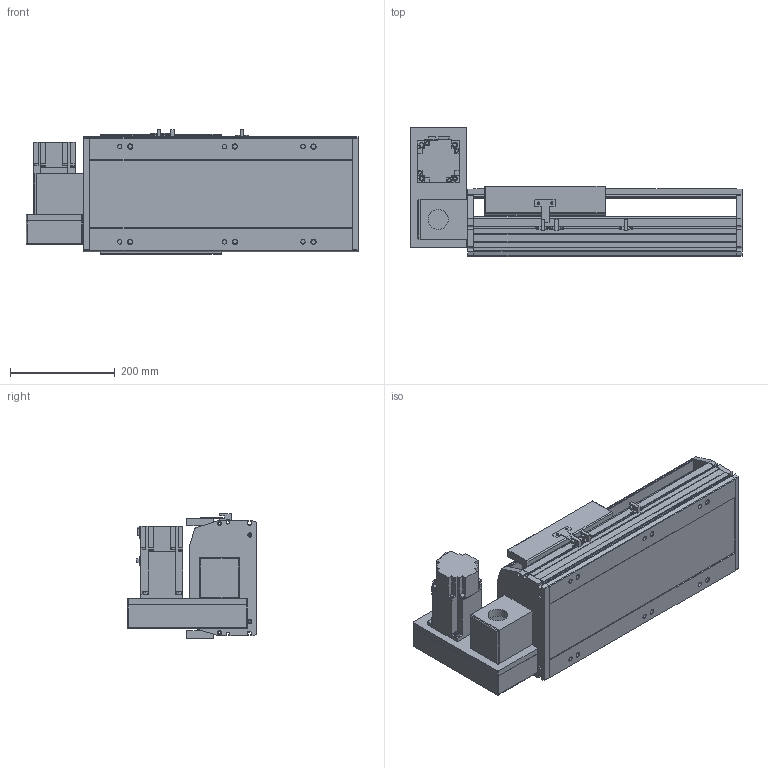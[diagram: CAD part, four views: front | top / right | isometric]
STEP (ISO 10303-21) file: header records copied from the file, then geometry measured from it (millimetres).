
FILE_DESCRIPTION(/* description */ ('STEP AP214'),/* implementation_level */ '2;1');
FILE_NAME(/* name */ 'PBS220-P40-S150-LU-T75-C1-N(0)',/* time_stamp */ '2022-06-13T02:26:22+02:00',/* author */ ('License CC BY-ND 4.0'),/* organization */ ('CADENAS'),/* preprocessor_version */ 'ST-DEVELOPER v18.102',/* originating_system */ 'PARTsolutions',/* authorisation */ ' ');
FILE_SCHEMA (('AUTOMOTIVE_DESIGN {1 0 10303 214 3 1 1}'));
Length unit declared in the file: millimetre
Products named in the file (7): PBS220-P40-S150-LU-T75-C1-N(0); PBS220_sensor; PBS220_plant; PBS220_sliser; T75-p1; PBS220T-LU_motors; PBS220-S150()_body
Assembly tree (8 placements, depth 2):
  PBS220-P40-S150-LU-T75-C1-N(0)
    PBS220_sensor  x3
    PBS220_plant
    PBS220_sliser
    T75-p1
    PBS220T-LU_motors
    PBS220-S150()_body
Bounding box: 634 x 247 x 238.5 mm (x, y, z)
Volume: 10012145.5 mm3; surface area: 1125491.3 mm2
Topology: 8 solids, 8 shells, 854 faces, 2256 edges, 1468 vertices
Faces by surface type: plane 578, cylinder 246, cone 30
Full cylindrical faces by diameter (mm): 2.013 x4, 4.5 x14, 4.917 x4, 6 x7, 6.647 x8, 8 x10, 8.376 x6, 8.5 x6, 10 x6, 14 x6, 38 x2, 40 x1, 70 x1
Entity records: 24069 total; most frequent: DIRECTION 4185, CARTESIAN_POINT 4162, ORIENTED_EDGE 3926, EDGE_CURVE 1963, AXIS2_PLACEMENT_3D 1425, VERTEX_POINT 1336, LINE 1335, VECTOR 1335
